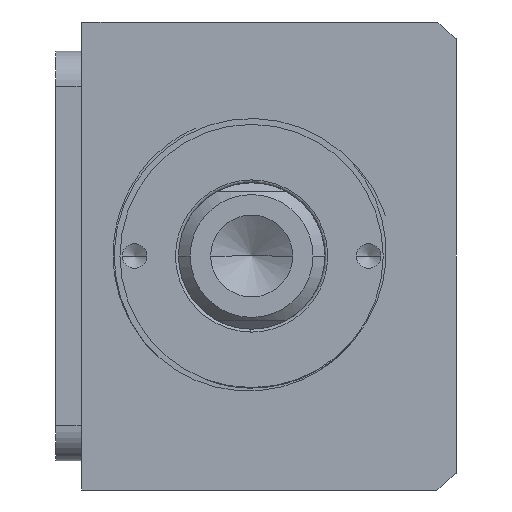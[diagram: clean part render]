
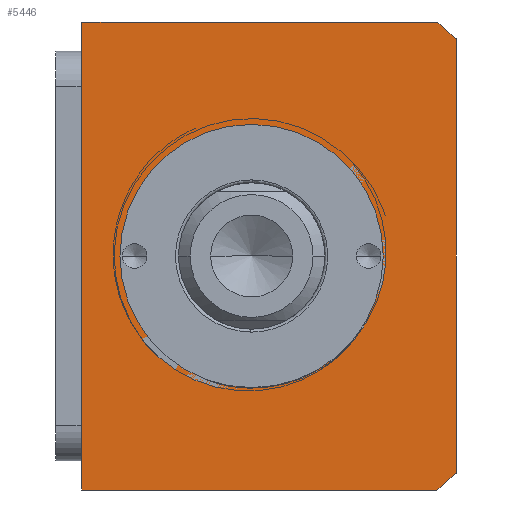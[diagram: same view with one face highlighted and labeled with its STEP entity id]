
A CAD part, front view. The second image highlights one B-rep face of the part: STEP entity #5446.
In plain terms, the highlighted planar face has unit normal (0, -1, 0) as drawn and (0, 0, 1) by its records, which use the part's own axes.
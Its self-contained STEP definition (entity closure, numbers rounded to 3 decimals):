
#307 = VERTEX_POINT ( 'NONE', #9616 ) ;
#399 = CARTESIAN_POINT ( 'NONE',  ( 40., 32., 75. ) ) ;
#719 = EDGE_LOOP ( 'NONE', ( #8711, #6052, #3186, #1378, #10190, #4357 ) ) ;
#1119 = DIRECTION ( 'NONE',  ( 0., 0., 1. ) ) ;
#1130 = AXIS2_PLACEMENT_3D ( 'NONE', #6759, #1794, #7601 ) ;
#1142 = CARTESIAN_POINT ( 'NONE',  ( 40., 32., 75. ) ) ;
#1149 = CARTESIAN_POINT ( 'NONE',  ( -37.094, -32., 75. ) ) ;
#1165 = DIRECTION ( 'NONE',  ( 0., 0., 1. ) ) ;
#1378 = ORIENTED_EDGE ( 'NONE', *, *, #2236, .T. ) ;
#1397 = VERTEX_POINT ( 'NONE', #8940 ) ;
#1620 = CARTESIAN_POINT ( 'NONE',  ( -22.5, 3., 75. ) ) ;
#1628 = EDGE_CURVE ( 'NONE', #6324, #5893, #7007, .T. ) ;
#1693 = EDGE_CURVE ( 'NONE', #5397, #5157, #9217, .T. ) ;
#1710 = CARTESIAN_POINT ( 'NONE',  ( -40., 32., 75. ) ) ;
#1794 = DIRECTION ( 'NONE',  ( 0., 0., 1. ) ) ;
#2236 = EDGE_CURVE ( 'NONE', #307, #5397, #4191, .T. ) ;
#2335 = VECTOR ( 'NONE', #2797, 1000. ) ;
#2797 = DIRECTION ( 'NONE',  ( 0., 1., 0. ) ) ;
#2950 = EDGE_LOOP ( 'NONE', ( #5961, #5172 ) ) ;
#2958 = DIRECTION ( 'NONE',  ( 0., 0., 1. ) ) ;
#3087 = FACE_OUTER_BOUND ( 'NONE', #719, .T. ) ;
#3186 = ORIENTED_EDGE ( 'NONE', *, *, #4361, .T. ) ;
#3540 = CARTESIAN_POINT ( 'NONE',  ( -40., -28.639, 75. ) ) ;
#3745 = VECTOR ( 'NONE', #6743, 1000. ) ;
#3992 = PLANE ( 'NONE',  #9974 ) ;
#4012 = EDGE_CURVE ( 'NONE', #1397, #4764, #9838, .T. ) ;
#4038 = AXIS2_PLACEMENT_3D ( 'NONE', #6121, #1165, #6952 ) ;
#4191 = CIRCLE ( 'NONE', #8290, 51. ) ;
#4357 = ORIENTED_EDGE ( 'NONE', *, *, #4832, .T. ) ;
#4361 = EDGE_CURVE ( 'NONE', #6660, #307, #4936, .T. ) ;
#4764 = VERTEX_POINT ( 'NONE', #1620 ) ;
#4819 = DIRECTION ( 'NONE',  ( 1., 0., 0. ) ) ;
#4832 = EDGE_CURVE ( 'NONE', #5157, #6324, #5953, .T. ) ;
#4936 = LINE ( 'NONE', #10350, #6604 ) ;
#5157 = VERTEX_POINT ( 'NONE', #399 ) ;
#5172 = ORIENTED_EDGE ( 'NONE', *, *, #8243, .F. ) ;
#5397 = VERTEX_POINT ( 'NONE', #8079 ) ;
#5446 = ADVANCED_FACE ( 'NONE', ( #5827, #3087 ), #3992, .T. ) ;
#5827 = FACE_BOUND ( 'NONE', #2950, .T. ) ;
#5893 = VERTEX_POINT ( 'NONE', #3540 ) ;
#5953 = LINE ( 'NONE', #9159, #3745 ) ;
#5961 = ORIENTED_EDGE ( 'NONE', *, *, #4012, .F. ) ;
#6052 = ORIENTED_EDGE ( 'NONE', *, *, #9317, .T. ) ;
#6078 = CARTESIAN_POINT ( 'NONE',  ( -40., 32., 75. ) ) ;
#6079 = CARTESIAN_POINT ( 'NONE',  ( 0., 3., 75. ) ) ;
#6121 = CARTESIAN_POINT ( 'NONE',  ( 0., 3., 75. ) ) ;
#6324 = VERTEX_POINT ( 'NONE', #6078 ) ;
#6604 = VECTOR ( 'NONE', #9513, 1000. ) ;
#6660 = VERTEX_POINT ( 'NONE', #1149 ) ;
#6743 = DIRECTION ( 'NONE',  ( -1., 0., 0. ) ) ;
#6759 = CARTESIAN_POINT ( 'NONE',  ( 0., 3., 75. ) ) ;
#6908 = DIRECTION ( 'NONE',  ( 1., 0., 0. ) ) ;
#6952 = DIRECTION ( 'NONE',  ( 1., 0., 0. ) ) ;
#7007 = LINE ( 'NONE', #1710, #8945 ) ;
#7441 = CIRCLE ( 'NONE', #7977, 22.5 ) ;
#7601 = DIRECTION ( 'NONE',  ( 1., 0., 0. ) ) ;
#7931 = CARTESIAN_POINT ( 'NONE',  ( 0., 3., 75. ) ) ;
#7977 = AXIS2_PLACEMENT_3D ( 'NONE', #6079, #1119, #6908 ) ;
#8079 = CARTESIAN_POINT ( 'NONE',  ( 40., -28.639, 75. ) ) ;
#8119 = CARTESIAN_POINT ( 'NONE',  ( 0., 0., 75. ) ) ;
#8243 = EDGE_CURVE ( 'NONE', #4764, #1397, #7441, .T. ) ;
#8290 = AXIS2_PLACEMENT_3D ( 'NONE', #7931, #2958, #8748 ) ;
#8711 = ORIENTED_EDGE ( 'NONE', *, *, #1628, .T. ) ;
#8748 = DIRECTION ( 'NONE',  ( 1., 0., 0. ) ) ;
#8940 = CARTESIAN_POINT ( 'NONE',  ( 22.5, 3., 75. ) ) ;
#8945 = VECTOR ( 'NONE', #9344, 1000. ) ;
#9159 = CARTESIAN_POINT ( 'NONE',  ( -40., 32., 75. ) ) ;
#9217 = LINE ( 'NONE', #1142, #2335 ) ;
#9317 = EDGE_CURVE ( 'NONE', #5893, #6660, #9464, .T. ) ;
#9344 = DIRECTION ( 'NONE',  ( 0., -1., 0. ) ) ;
#9464 = CIRCLE ( 'NONE', #4038, 51. ) ;
#9513 = DIRECTION ( 'NONE',  ( 1., 0., 0. ) ) ;
#9616 = CARTESIAN_POINT ( 'NONE',  ( 37.094, -32., 75. ) ) ;
#9838 = CIRCLE ( 'NONE', #1130, 22.5 ) ;
#9974 = AXIS2_PLACEMENT_3D ( 'NONE', #8119, #10550, #4819 ) ;
#10190 = ORIENTED_EDGE ( 'NONE', *, *, #1693, .T. ) ;
#10350 = CARTESIAN_POINT ( 'NONE',  ( -40., -32., 75. ) ) ;
#10550 = DIRECTION ( 'NONE',  ( 0., 0., 1. ) ) ;
